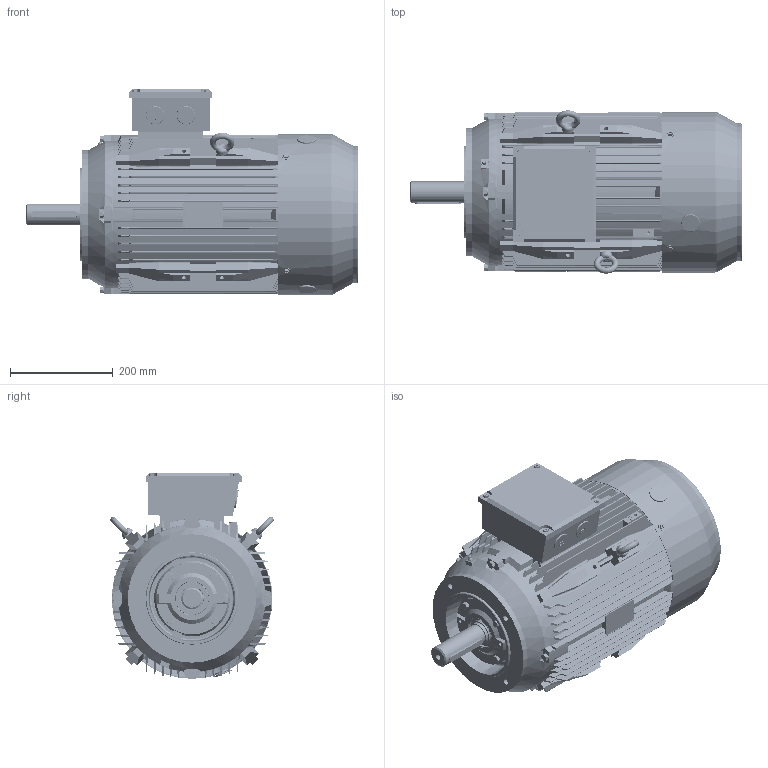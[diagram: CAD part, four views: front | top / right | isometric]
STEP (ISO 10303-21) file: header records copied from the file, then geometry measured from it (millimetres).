
FILE_DESCRIPTION (( 'STEP AP214' ), '1' );
FILE_NAME ('BCT4750.16H814.11.step', '2020-04-23T15:39:51', ( '' ), ( '' ), 'SwSTEP 2.0', 'SolidWorks 2019', '' );
FILE_SCHEMA (( 'AUTOMOTIVE_DESIGN' ));
Length unit declared in the file: millimetre
Products named in the file (1): BCT4750.16H814.11
Bounding box: 646.5 x 318.13 x 400.5 mm (x, y, z)
Volume: 8721211 mm3; surface area: 2792381 mm2
Topology: 51 solids, 52 shells, 6729 faces, 19263 edges, 12584 vertices
Faces by surface type: plane 3201, cylinder 2510, cone 437, torus 361, bspline 116, sphere 104
Entity records: 261901 total; most frequent: CARTESIAN_POINT 84085, ORIENTED_EDGE 38098, DIRECTION 36055, EDGE_CURVE 19049, AXIS2_PLACEMENT_3D 12685, VERTEX_POINT 12532, VECTOR 10685, LINE 10685
